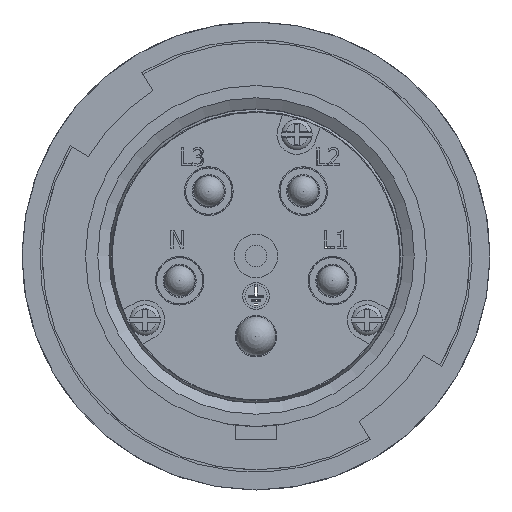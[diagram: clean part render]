
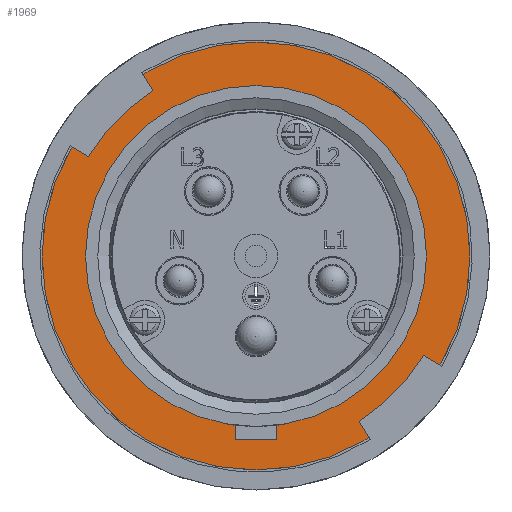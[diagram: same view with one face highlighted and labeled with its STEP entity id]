
A CAD part, left-side view. The second image highlights one B-rep face of the part: STEP entity #1969.
In plain terms, the highlighted planar face has unit normal (-1, 0, 0).
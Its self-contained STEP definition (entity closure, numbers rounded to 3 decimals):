
#1942=CARTESIAN_POINT('',(-125.5,0.0,0.0));
#1943=DIRECTION('',(-1.0,0.0,0.0));
#1944=DIRECTION('',(0.0,0.0,1.0));
#1945=AXIS2_PLACEMENT_3D('',#1942,#1943,#1944);
#1946=PLANE('',#1945);
#1947=CARTESIAN_POINT('',(-125.5,48.,0.));
#1948=VERTEX_POINT('',#1947);
#1949=CARTESIAN_POINT('',(-125.5,0.0,0.0));
#1950=DIRECTION('',(-1.0,0.0,0.0));
#1951=DIRECTION('',(0.0,-1.0,0.0));
#1952=AXIS2_PLACEMENT_3D('',#1949,#1950,#1951);
#1953=CIRCLE('',#1952,48.);
#1954=EDGE_CURVE('',#1948,#1948,#1953,.T.);
#1955=ORIENTED_EDGE('',*,*,#1954,.T.);
#1956=EDGE_LOOP('',(#1955));
#1957=FACE_OUTER_BOUND('',#1956,.T.);
#1958=CARTESIAN_POINT('',(-125.5,38.25,0.));
#1959=VERTEX_POINT('',#1958);
#1960=CARTESIAN_POINT('',(-125.5,0.0,0.0));
#1961=DIRECTION('',(1.0,0.0,0.0));
#1962=DIRECTION('',(0.0,-1.0,0.0));
#1963=AXIS2_PLACEMENT_3D('',#1960,#1961,#1962);
#1964=CIRCLE('',#1963,38.25);
#1965=EDGE_CURVE('',#1959,#1959,#1964,.T.);
#1966=ORIENTED_EDGE('',*,*,#1965,.T.);
#1967=EDGE_LOOP('',(#1966));
#1968=FACE_BOUND('',#1967,.T.);
#1969=ADVANCED_FACE('',(#1957,#1968),#1946,.T.);
